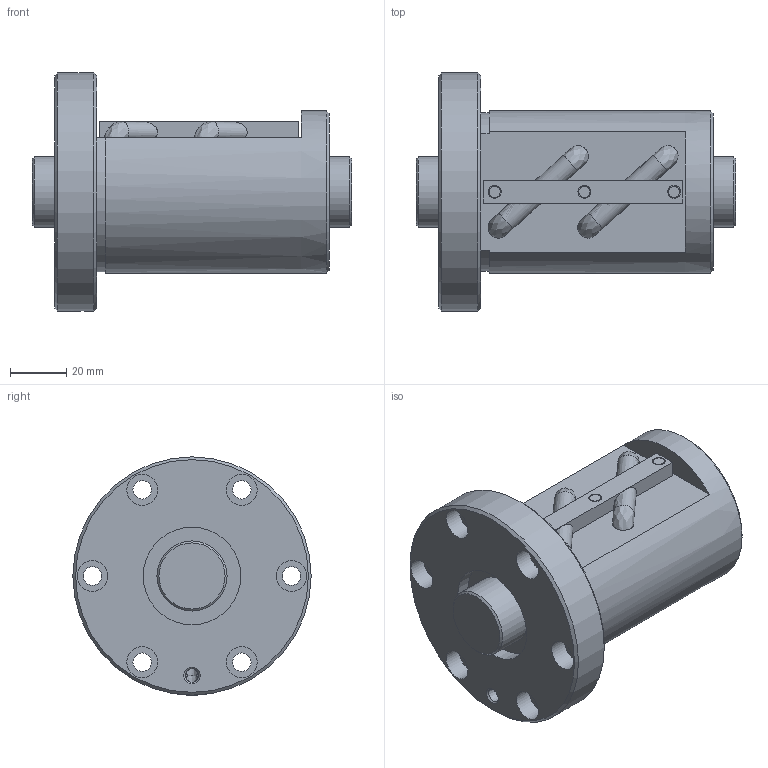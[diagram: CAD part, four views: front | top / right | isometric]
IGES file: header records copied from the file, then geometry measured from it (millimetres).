
Start section: Data from Parasolid IGES Translator 26.0.171, Copyright(c) 2006 Siemens PLM Software. All Rights Reserved.
Global section: file name: BIF2508V-7RRG0+114LC0_000.igs; native system: By Siemens PLM Incorporated; preprocessor: XPlus GENERIC/IGES 26.0.171; author: Noname; organization: Noname; date: 20240715.081755; units: millimetre
Bounding box: 114 x 85 x 85 mm (x, y, z)
Surface area: 51267.4 mm2 (no closed solid volume)
Topology: 0 solids, 0 shells, 93 faces, 427 edges, 392 vertices
Faces by surface type: revolution 50, extrusion 43
